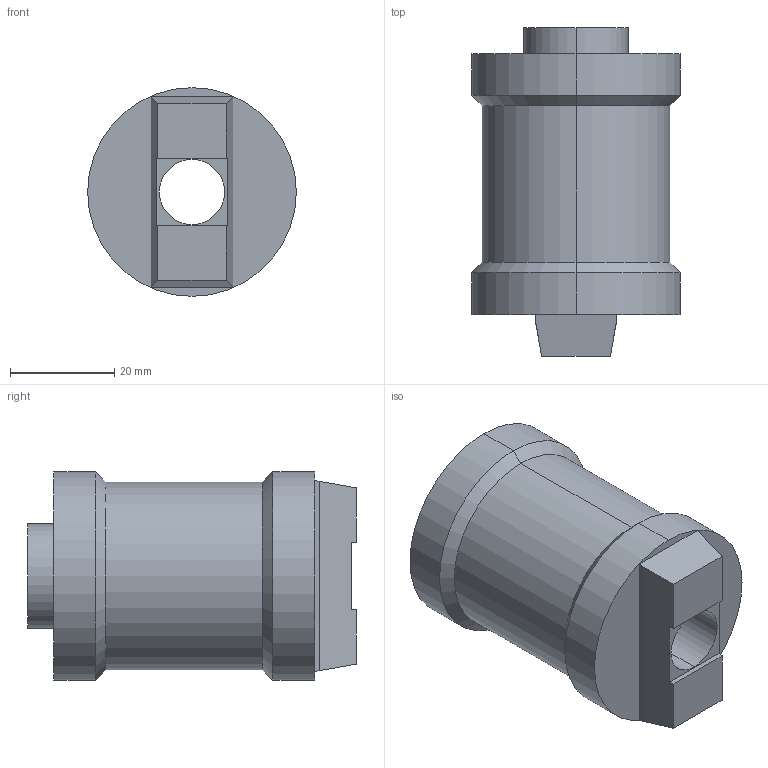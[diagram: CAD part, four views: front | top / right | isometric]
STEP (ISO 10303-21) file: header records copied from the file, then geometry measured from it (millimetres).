
FILE_DESCRIPTION (( 'STEP AP214' ), '1' );
FILE_NAME ('1A3-2045-0-S_MultiZero Cylindrical Support D40 H50.STEP', '2024-09-25T17:34:56', ( '' ), ( '' ), 'SwSTEP 2.0', 'SolidWorks 2018', '' );
FILE_SCHEMA (( 'AUTOMOTIVE_DESIGN' ));
Length unit declared in the file: millimetre
Products named in the file (1): 1A3-2045-0-S_MultiZero Cylindrical Support D40 H50
Bounding box: 40 x 63 x 40 mm (x, y, z)
Volume: 53079.5 mm3; surface area: 11778.6 mm2
Topology: 1 solids, 1 shells, 28 faces, 64 edges, 40 vertices
Faces by surface type: plane 14, cylinder 10, cone 4
Entity records: 822 total; most frequent: DIRECTION 142, CARTESIAN_POINT 133, ORIENTED_EDGE 128, EDGE_CURVE 64, AXIS2_PLACEMENT_3D 49, VECTOR 44, LINE 44, VERTEX_POINT 40
